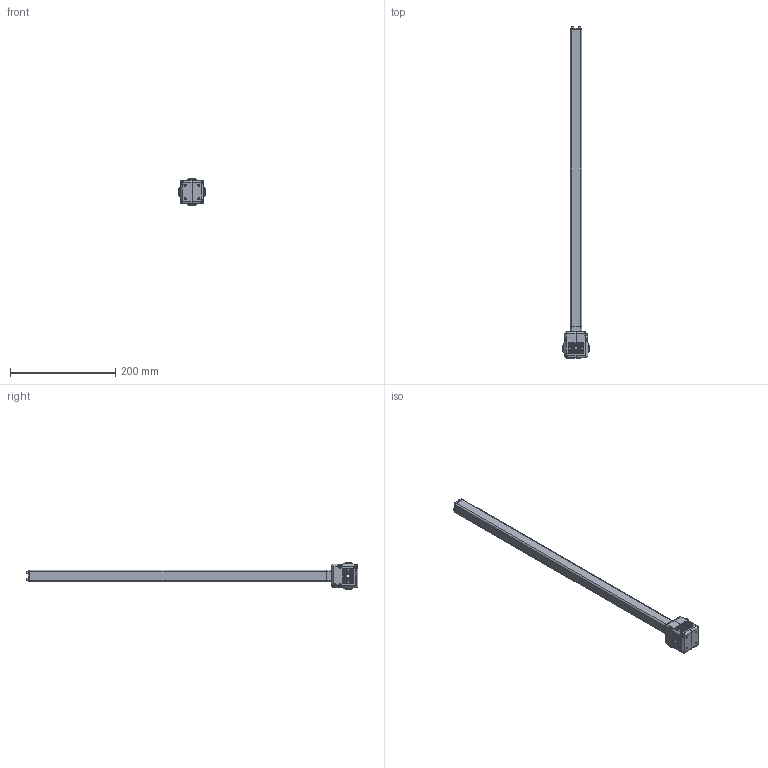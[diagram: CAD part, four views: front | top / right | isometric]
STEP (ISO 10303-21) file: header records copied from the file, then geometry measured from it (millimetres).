
FILE_DESCRIPTION (( 'STEP AP203' ), '1' );
FILE_NAME ('3D_TBS4.STEP', '2017-07-07T03:57:08', ( '' ), ( '' ), 'SwSTEP 2.0', 'SolidWorks 2015', '' );
FILE_SCHEMA (( 'CONFIG_CONTROL_DESIGN' ));
Length unit declared in the file: millimetre
Products named in the file (1): 3D_TBS4
Bounding box: 50 x 630 x 50 mm (x, y, z)
Surface area: 126454 mm2 (no closed solid volume)
Topology: 0 solids, 41 shells, 1545 faces, 3787 edges, 2352 vertices
Faces by surface type: plane 714, cylinder 483, cone 184, torus 100, bspline 64
Entity records: 54353 total; most frequent: CARTESIAN_POINT 17892, DIRECTION 7580, ORIENTED_EDGE 7559, EDGE_CURVE 3783, AXIS2_PLACEMENT_3D 2687, VERTEX_POINT 2352, LINE 2206, VECTOR 2206
